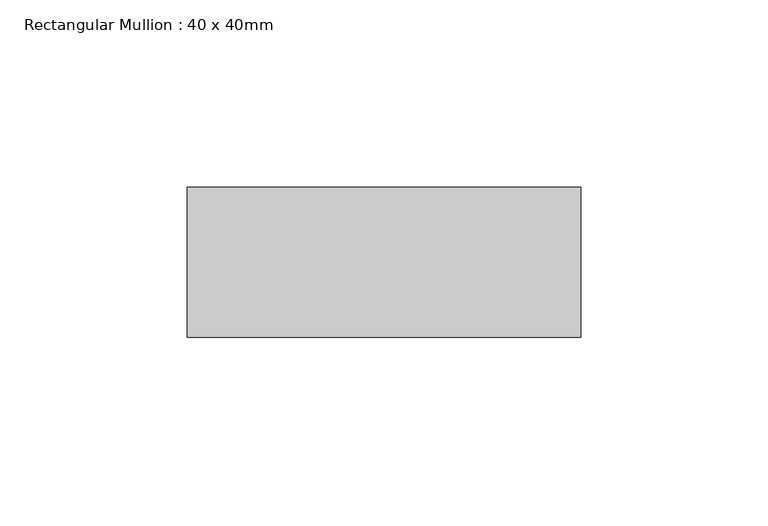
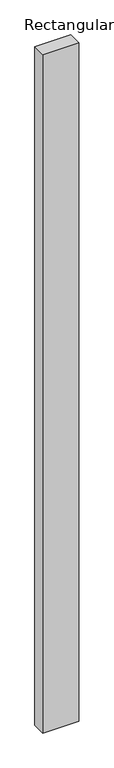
"""IFC4 building model written with IfcOpenShell, lengths in millimetres: member geometry, Rectangular Mullion : 40 x 40mm."""

from ifc_helpers import new_model, si_unit, frame, origin, place, context, project, spatial, polyline, outline, extrude, source, transform, mapped, element, save


def rectangular_mullion_40_x_40mm_2ee36523(model_context):
    return source(origin(), model_context, "Body", "SweptSolid", [
        extrude(outline(polyline([(0.0, -20.0), (0.0, -60.0), (-105.0, -60.0), (-105.0, -20.0), (0.0, -20.0)])), frame((0.0, 0.0, -2101.1501064), z_axis=(0.0, 0.0, 1.0), x_axis=(1.0, 0.0, 0.0)), (0.0, 0.0, 1.0), 2101.1501064),
    ])


if __name__ == "__main__":
    model = new_model("IFC4")
    model_context = context("Model", 3, world=origin())
    ifc_project = project(units=[si_unit("LENGTHUNIT", "METRE", prefix="MILLI")], contexts=[model_context])
    site = spatial("IfcSite", under=ifc_project)
    building = spatial("IfcBuilding", under=site)
    placement = place(None, origin())
    rectangular_mullion_40_x_40mm_shape = rectangular_mullion_40_x_40mm_2ee36523(model_context)
    element("IfcMember", 1, ObjectType="Rectangular Mullion : 40 x 40mm", at=placement, inside=building, context=model_context, shape_type="MappedRepresentation", body=[
        mapped(rectangular_mullion_40_x_40mm_shape, transform((0.0, 0.0, 0.0), x_axis=(1.0, 0.0, 0.0), y_axis=(0.0, 1.0, 0.0), z_axis=(0.0, 0.0, 1.0))),
    ])
    save(model, "model.ifc")
